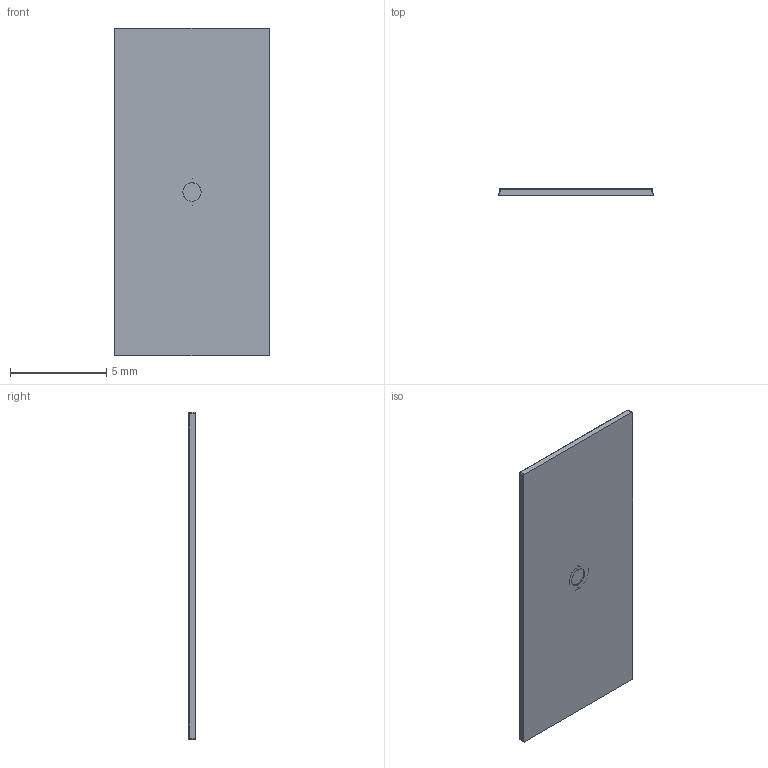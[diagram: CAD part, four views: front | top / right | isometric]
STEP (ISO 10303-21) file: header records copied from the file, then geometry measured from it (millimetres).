
FILE_DESCRIPTION(/* description */ (''),/* implementation_level */ '2;1');
FILE_NAME(/* name */ 'UNPD17008030',/* time_stamp */ '2018-12-10T15:46:47+01:00',/* author */ (''),/* organization */ (''),/* preprocessor_version */ 'ST-DEVELOPER v15',/* originating_system */ '',/* authorisation */ '');
FILE_SCHEMA (('AUTOMOTIVE_DESIGN'));
Length unit declared in the file: centimetre
Products named in the file (1): Document
Bounding box: 8 x 0.35 x 17 mm (x, y, z)
Surface area: 290.2 mm2 (no closed solid volume)
Topology: 0 solids, 4 shells, 41 faces, 113 edges, 52 vertices
Faces by surface type: bspline 35, plane 6
Entity records: 2548 total; most frequent: CARTESIAN_POINT 2009, ORIENTED_EDGE 186, EDGE_CURVE 106, VERTEX_POINT 53, EDGE_LOOP 42, ADVANCED_FACE 41, FACE_OUTER_BOUND 41, B_SPLINE_CURVE_WITH_KNOTS 22
